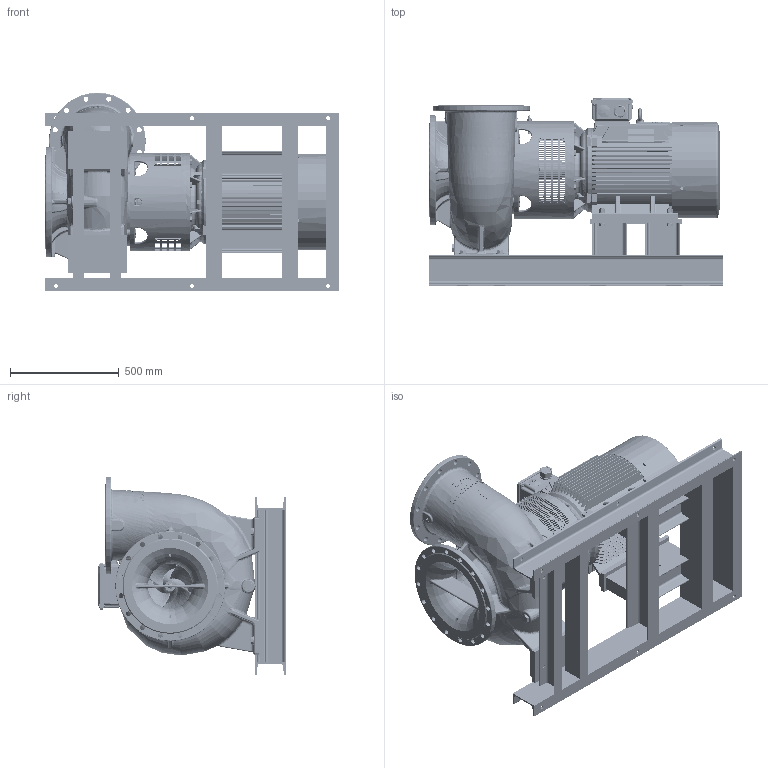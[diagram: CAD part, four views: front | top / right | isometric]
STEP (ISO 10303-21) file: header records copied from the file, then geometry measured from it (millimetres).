
FILE_DESCRIPTION((''),'2;1');
FILE_NAME('NSLH300-250_A02_FO_ASM','2024-05-28T',('maxz'),(''),'PRO/ENGINEER BY PARAMETRIC TECHNOLOGY CORPORATION, 2017170','PRO/ENGINEER BY PARAMETRIC TECHNOLOGY CORPORATION, 2017170','');
FILE_SCHEMA(('CONFIG_CONTROL_DESIGN'));
Products named in the file (58): 597040; 553270; 597060; 117620; 704247; 700951; 506840; 117618; 117306; 707211; 725991_1; 725991_2; 725991_ASM; 709675; 705274; 117619; 696148_ASM; 597070; 717911; 506702; 704032; 717910; 2041146; 712334; 710728_1; 710728_2; 710728_ASM; 710729; 704067; 705750; 704309; 712131; 704390; 704391; 704189; 506954; 702273; 704022; 696147_ASM; 117637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
Assembly tree (120 placements, depth 5):
  NSLH300-250_A02_FO_ASM
    696147_ASM
      597040
      553270
      597060
      696148_ASM
        117620
        704247
        700951  x2
        506840
        117618
        117306
        707211
        725991_ASM
          725991_1
          725991_2
        709675
        705274
        117619
      597070
      717911
      506702
      704032
      717910
      2041146
      712334
      710728_ASM
        710728_1
        710728_2
      710729
      704067  x8
      705750  x8
      704309  x4
      712131  x2
      704390  x4
      704391
      704189
      506954
      702273  x4
      704022
    696156_ASM
      117637
      597130
      117624
      712333
      704268
      711318
      710729
      110704_AF0
      720488  x8
      110704_AF2
      704021  x4
      702247  x4
      701239  x8
      701218  x4
      703840  x4
      760629  x4
      704309  x8
      703207
    854502
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Bounding box: 1350 x 859.73 x 912.5 mm (x, y, z)
Volume: 121497463.2 mm3; surface area: 13662465.8 mm2
Topology: 145 solids, 203 shells, 8217 faces, 21371 edges, 13673 vertices
Faces by surface type: plane 3099, cylinder 1720, bspline 1215, cone 852, extrusion 721, torus 459, sphere 139, revolution 12
Entity records: 434370 total; most frequent: CARTESIAN_POINT 263219, ORIENTED_EDGE 38072, DIRECTION 29959, EDGE_CURVE 19150, VERTEX_POINT 12382, AXIS2_PLACEMENT_3D 10403, VECTOR 9141, EDGE_LOOP 8440
